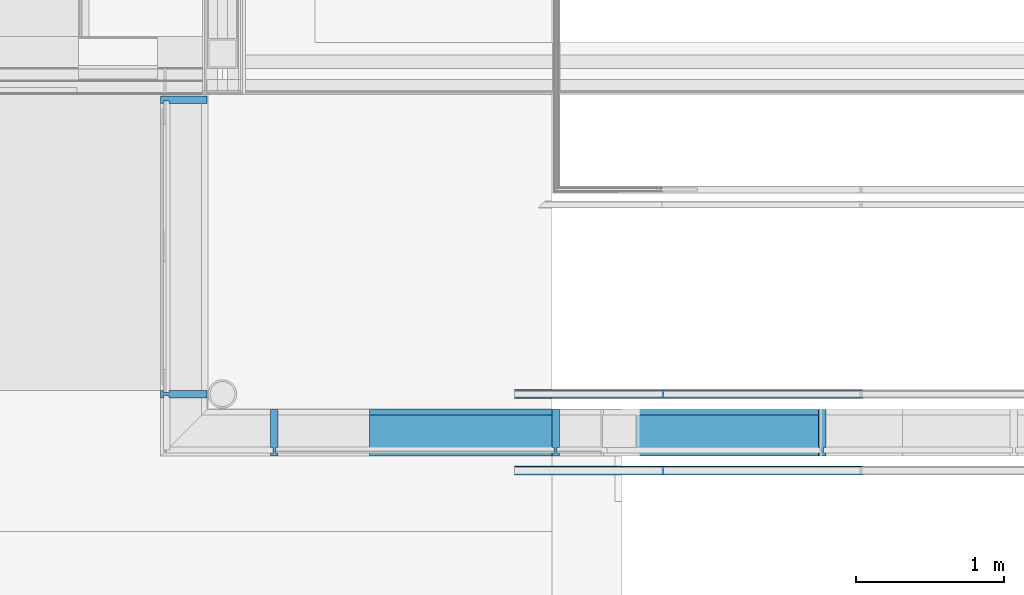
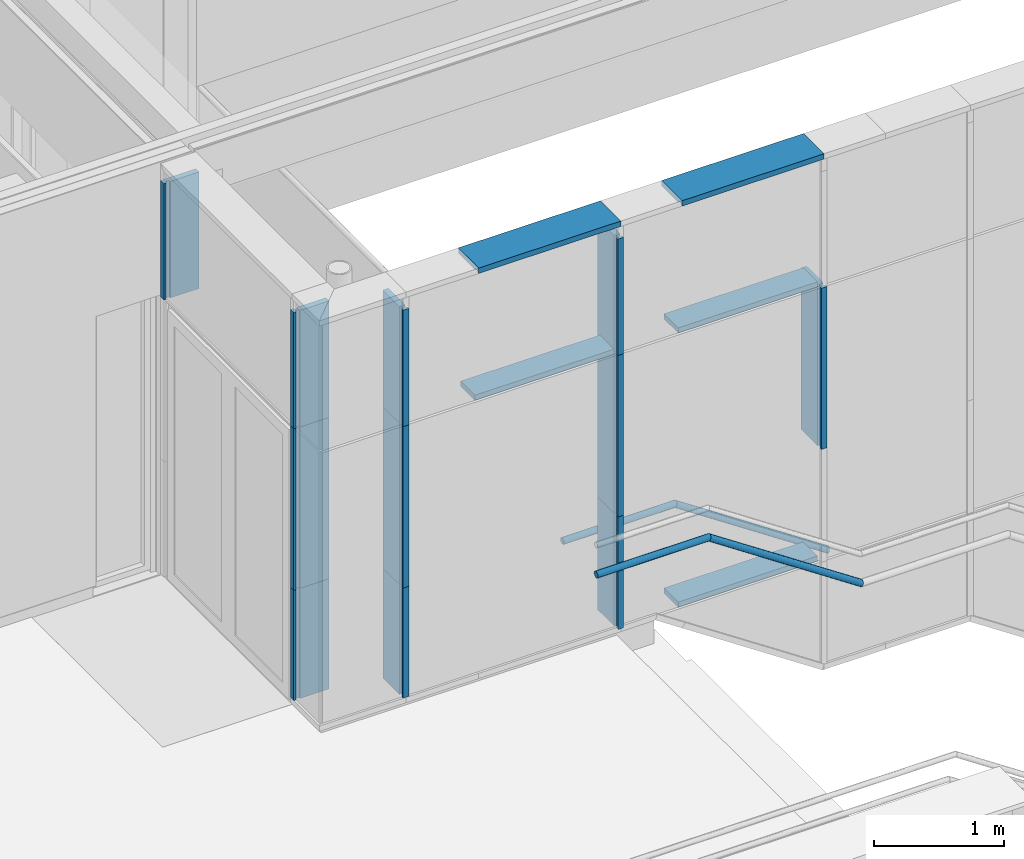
# One storey, part 1 of 137: 20 members, 3 elements without a shape of their own.
"""IFC2X3 building model written with IfcOpenShell, lengths in millimetres."""

import ifcopenshell
import ifcopenshell.guid

model = None  # the IFC model being written
_history = None  # IfcOwnerHistory: only IFC2X3 demands one
_inside = {}  # id of a spatial element -> (the spatial element, [elements in it])
_under = {}  # id of a project, library or spatial element -> (it, [spatial elements below it])
_declared = {}  # id of a project -> (the project, [libraries it declares])
_typed = {}  # id of a type object -> (the type object, [elements of that type])
_made_of = {}  # id of a material, layer set ... -> (it, [elements and type objects made of it])


def new_model(schema):
    """Start an empty IFC model of exactly this schema.

    Asked for "IFC4X3", IfcOpenShell would pick the latest addendum, in which some entities
    have other attributes; the version numbers below select the first issue.
    IFC2X3 requires an IfcOwnerHistory on every rooted entity: one is made here for all.
    """
    global model, _history
    if schema == "IFC4X3":
        model = ifcopenshell.file(schema_version=(4, 3, 0, 0))
    else:
        model = ifcopenshell.file(schema=schema)
    _inside.clear()
    _under.clear()
    _declared.clear()
    _typed.clear()
    _made_of.clear()
    _history = None
    if model.schema == "IFC2X3":
        org = make("IfcOrganization", Name="unknown")
        user = make(
            "IfcPersonAndOrganization",
            ThePerson=make("IfcPerson", FamilyName="unknown"),
            TheOrganization=org,
        )
        app = make(
            "IfcApplication",
            ApplicationDeveloper=org,
            Version="unknown",
            ApplicationFullName="unknown",
            ApplicationIdentifier="unknown",
        )
        _history = make(
            "IfcOwnerHistory",
            OwningUser=user,
            OwningApplication=app,
            ChangeAction="ADDED",
            CreationDate=0,
        )
    return model


def make(cls, **values):
    """One entity of the class cls with the attributes given. An attribute that is None is left unset."""
    return model.create_entity(
        cls, **{name: value for name, value in values.items() if value is not None}
    )


def entity(cls, *values):
    """Any entity or typed value of the class cls, its attributes in the order of the schema. None: left unset."""
    e = model.create_entity(cls)
    for i, value in enumerate(values):
        if value is not None:
            e[i] = value
    return e


def rooted(cls, **values):
    """An entity with a GlobalId (a new one), such as an element, a storey or a relation."""
    return make(cls, GlobalId=ifcopenshell.guid.new(), OwnerHistory=_history, **values)


def si_unit(unit_type, name, prefix=None):
    """IfcSIUnit, for example si_unit("LENGTHUNIT", "METRE", prefix="MILLI")."""
    return make("IfcSIUnit", UnitType=unit_type, Prefix=prefix, Name=name)


def converted_unit(unit_type, name, factor, base, dimensions=None, offset=None):
    """IfcConversionBasedUnit, such as the inch: factor (a typed value) times the base unit."""
    return make(
        "IfcConversionBasedUnit"
        if offset is None
        else "IfcConversionBasedUnitWithOffset",
        ConversionOffset=offset,
        Dimensions=None
        if dimensions is None
        else entity("IfcDimensionalExponents", *dimensions),
        UnitType=unit_type,
        Name=name,
        ConversionFactor=make(
            "IfcMeasureWithUnit", ValueComponent=factor, UnitComponent=base
        ),
    )


def derived_unit(unit_type, elements):
    """IfcDerivedUnit: a product of units, each with its exponent."""
    return make(
        "IfcDerivedUnit",
        Elements=[
            make("IfcDerivedUnitElement", Unit=unit, Exponent=power)
            for unit, power in elements
        ],
        UnitType=unit_type,
    )


def money_unit(currency):
    """IfcMonetaryUnit."""
    return make("IfcMonetaryUnit", Currency=currency)


def assignment(units):
    """IfcUnitAssignment: the units of a project."""
    return None if units is None else make("IfcUnitAssignment", Units=units)


def point(xyz):
    """IfcCartesianPoint."""
    return None if xyz is None else make("IfcCartesianPoint", Coordinates=xyz)


def direction(xyz):
    """IfcDirection."""
    return None if xyz is None else make("IfcDirection", DirectionRatios=xyz)


def frame(location, z_axis=None, x_axis=None):
    """IfcAxis2Placement3D, a coordinate frame: its origin and axes. An axis left out is left unset."""
    return make(
        "IfcAxis2Placement3D",
        Location=point(location),
        Axis=direction(z_axis),
        RefDirection=direction(x_axis),
    )


def origin_with_axes():
    """The frame at (0, 0, 0) with the z axis (0, 0, 1) and the x axis (1, 0, 0) written out."""
    return frame((0.0, 0.0, 0.0), z_axis=(0.0, 0.0, 1.0), x_axis=(1.0, 0.0, 0.0))


def place(relative_to, where):
    """IfcLocalPlacement: puts the frame where relative to a parent placement (None: the world)."""
    return make(
        "IfcLocalPlacement", PlacementRelTo=relative_to, RelativePlacement=where
    )


def context(
    kind, dimensions, precision=None, world=None, true_north=None, identifier=None
):
    """IfcGeometricRepresentationContext, for example the 3D "Model" context."""
    return make(
        "IfcGeometricRepresentationContext",
        ContextIdentifier=identifier,
        ContextType=kind,
        CoordinateSpaceDimension=dimensions,
        Precision=precision,
        WorldCoordinateSystem=world,
        TrueNorth=true_north,
    )


def subcontext(parent, identifier, kind, view, scale=None):
    """IfcGeometricRepresentationSubContext, for example "Body" below "Model"."""
    return make(
        "IfcGeometricRepresentationSubContext",
        ContextIdentifier=identifier,
        ContextType=kind,
        ParentContext=parent,
        TargetScale=scale,
        TargetView=view,
    )


def project(units=None, contexts=None):
    """IfcProject with its units and contexts."""
    return rooted(
        "IfcProject",
        Name="project",
        RepresentationContexts=contexts,
        UnitsInContext=assignment(units),
    )


def spatial(cls, under=None, at=None, **own):
    """A site, building, storey or space (cls), placed at a placement, below another one or the project."""
    s = rooted(cls, ObjectPlacement=at, **own)
    if under is not None:
        _under.setdefault(under.id(), (under, []))[1].append(s)
    return s


def faces_of(points, faces, orient=None, outer=None):
    """IfcFace entities. A face is a list of loops; a loop is a list of indices into points, from 0.

    orient and outer hold one flag for each loop. By default every Orientation is true, the
    first loop of a face is its IfcFaceOuterBound and the others are IfcFaceBound.
    """
    made = []
    for i, loops in enumerate(faces):
        bounds = []
        for j, loop in enumerate(loops):
            is_outer = j == 0 if outer is None else outer[i][j]
            bounds.append(
                make(
                    "IfcFaceOuterBound" if is_outer else "IfcFaceBound",
                    Bound=make("IfcPolyLoop", Polygon=[points[k] for k in loop]),
                    Orientation=True if orient is None else orient[i][j],
                )
            )
        made.append(make("IfcFace", Bounds=bounds))
    return made


def faceted_brep(points, faces, orient=None, outer=None, voids=None):
    """IfcFacetedBrep: a solid bounded by flat faces; with voids (closed shells), ...WithVoids."""
    shared = [point(p) for p in points]
    hull = make("IfcClosedShell", CfsFaces=faces_of(shared, faces, orient, outer))
    if voids is None:
        return make("IfcFacetedBrep", Outer=hull)
    return make(
        "IfcFacetedBrepWithVoids",
        Outer=hull,
        Voids=[
            make(cls, CfsFaces=faces_of(shared, fs, o, b)) for cls, fs, o, b in voids
        ],
    )


def shape(context_of_items, identifier, shape_type, items):
    """IfcShapeRepresentation: the items that make up one representation, for example the "Body"."""
    return make(
        "IfcShapeRepresentation",
        ContextOfItems=context_of_items,
        RepresentationIdentifier=identifier,
        RepresentationType=shape_type,
        Items=items,
    )


def source(mapping_origin, context_of_items, identifier, shape_type, items):
    """IfcRepresentationMap: a shape defined once, which mapped items show again and again."""
    return make(
        "IfcRepresentationMap",
        MappingOrigin=mapping_origin,
        MappedRepresentation=shape(context_of_items, identifier, shape_type, items),
    )


def transform(
    local_origin,
    x_axis=None,
    y_axis=None,
    z_axis=None,
    scale=None,
    scale2=None,
    scale3=None,
    uniform=True,
):
    """IfcCartesianTransformationOperator3D, or its non-uniform kind. x_axis, y_axis, z_axis: its Axis1, 2, 3."""
    if uniform:
        return make(
            "IfcCartesianTransformationOperator3D",
            Axis1=direction(x_axis),
            Axis2=direction(y_axis),
            LocalOrigin=point(local_origin),
            Scale=scale,
            Axis3=direction(z_axis),
        )
    return make(
        "IfcCartesianTransformationOperator3DnonUniform",
        Axis1=direction(x_axis),
        Axis2=direction(y_axis),
        LocalOrigin=point(local_origin),
        Scale=scale,
        Axis3=direction(z_axis),
        Scale2=scale2,
        Scale3=scale3,
    )


def mapped(mapping_source, mapping_target):
    """IfcMappedItem: shows the shape of a source again, moved by a transform."""
    return make(
        "IfcMappedItem", MappingSource=mapping_source, MappingTarget=mapping_target
    )


def material(Name=None, Category=None):
    """IfcMaterial."""
    return make("IfcMaterial", Name=Name, Category=Category)


def made_of(thing, what):
    """Note that an element or type object is made of a material, layer set ...; save() writes the relation."""
    if what is not None:
        _made_of.setdefault(what.id(), (what, []))[1].append(thing)
    return thing


def type_object(cls, material=None, **own):
    """A type object (cls), such as IfcWallType, which elements share."""
    return made_of(rooted(cls, **own), material)


def type_shapes(of_type, sources):
    """Give a type object the sources (RepresentationMaps) that its elements show as mapped items."""
    of_type.RepresentationMaps = sources


def element(
    cls,
    number,
    at=None,
    inside=None,
    cuts=None,
    type_object=None,
    material=None,
    context=None,
    identifier="Body",
    shape_type=None,
    held_by="IfcProductDefinitionShape",
    body=None,
    shapes=None,
    **own,
):
    """One element of the class cls, such as IfcWall. Its Tag is "e" and its number.

    at: its placement. inside: the storey or other place that contains it. cuts: it is an
    opening in that element (IfcRelVoidsElement). A single representation is given by context,
    identifier, shape_type and body (its items); several are given by shapes. held_by: the class
    of the entity that holds the representations. save() writes the other relations.
    """
    e = rooted(cls, Tag="e%d" % number, ObjectPlacement=at, **own)
    if body is not None:
        shapes = [shape(context, identifier, shape_type, body)]
    if shapes is not None:
        e.Representation = make(held_by, Representations=shapes)
    if inside is not None:
        _inside.setdefault(inside.id(), (inside, []))[1].append(e)
    if cuts is not None:
        rooted(
            "IfcRelVoidsElement", RelatingBuildingElement=cuts, RelatedOpeningElement=e
        )
    if type_object is not None:
        _typed.setdefault(type_object.id(), (type_object, []))[1].append(e)
    return made_of(e, material)


def aggregate(whole, parts):
    """IfcRelAggregates: a whole, such as a stair, and the parts it consists of."""
    return rooted("IfcRelAggregates", RelatingObject=whole, RelatedObjects=parts)


def save(model, path):
    """Write the relations noted so far, then the file.

    IfcRelAggregates (storeys below a building ...), IfcRelContainedInSpatialStructure (elements
    in a storey), IfcRelDefinesByType, IfcRelAssociatesMaterial and IfcRelDeclares: one each for
    every whole, place, type object, material and project.
    """
    for whole, parts in _under.values():
        aggregate(whole, parts)
    for where, things in _inside.values():
        rooted(
            "IfcRelContainedInSpatialStructure",
            RelatedElements=things,
            RelatingStructure=where,
        )
    for kind, things in _typed.values():
        rooted("IfcRelDefinesByType", RelatedObjects=things, RelatingType=kind)
    for what, things in _made_of.values():
        rooted("IfcRelAssociatesMaterial", RelatedObjects=things, RelatingMaterial=what)
    for by, libraries in _declared.values():
        rooted("IfcRelDeclares", RelatingContext=by, RelatedDefinitions=libraries)
    model.write(path)


model = new_model("IFC2X3")

# Units and contexts
model_context = context("Model", 3, precision=0.01, world=origin_with_axes(), true_north=direction((0.0, 1.0)))
body_context = subcontext(model_context, "Body", "Model", "MODEL_VIEW")
ifc_project = project(units=[si_unit("LENGTHUNIT", "METRE", prefix="MILLI"), si_unit("AREAUNIT", "SQUARE_METRE"), si_unit("VOLUMEUNIT", "CUBIC_METRE"), converted_unit("PLANEANGLEUNIT", "DEGREE", entity("IfcPlaneAngleMeasure", 0.0174532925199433), si_unit("PLANEANGLEUNIT", "RADIAN"), dimensions=[0, 0, 0, 0, 0, 0, 0]), money_unit("EUR"), converted_unit("TIMEUNIT", "Year", entity("IfcTimeMeasure", 31556926.0), si_unit("TIMEUNIT", "SECOND"), dimensions=[0, 0, 1, 0, 0, 0, 0]), si_unit("MASSUNIT", "GRAM", prefix="KILO"), si_unit("THERMODYNAMICTEMPERATUREUNIT", "DEGREE_CELSIUS"), si_unit("LUMINOUSINTENSITYUNIT", "LUMEN"), si_unit("ENERGYUNIT", "JOULE", prefix="MEGA"), derived_unit("THERMALCONDUCTANCEUNIT", [(si_unit("POWERUNIT", "WATT"), 1), (si_unit("LENGTHUNIT", "METRE"), -1), (si_unit("THERMODYNAMICTEMPERATUREUNIT", "KELVIN"), -1)]), derived_unit("SPECIFICHEATCAPACITYUNIT", [(si_unit("ENERGYUNIT", "JOULE"), 1), (si_unit("MASSUNIT", "GRAM", prefix="KILO"), -1), (si_unit("THERMODYNAMICTEMPERATUREUNIT", "KELVIN"), -1)]), derived_unit("MASSDENSITYUNIT", [(si_unit("MASSUNIT", "GRAM", prefix="KILO"), 1), (si_unit("VOLUMEUNIT", "CUBIC_METRE"), -1)])], contexts=[model_context])

# Site, building, storey
site_placement = place(None, origin_with_axes())
site = spatial("IfcSite", under=ifc_project, at=site_placement, Name="Site", CompositionType="ELEMENT")
building_placement = place(site_placement, origin_with_axes())
building = spatial("IfcBuilding", under=site, at=building_placement, Name="Naam gebouw", CompositionType="ELEMENT")
storey_placement = place(building_placement, frame((0.0, 0.0, 3960.0), z_axis=(0.0, 0.0, 1.0), x_axis=(1.0, 0.0, 0.0)))
storey = spatial("IfcBuildingStorey", under=building, at=storey_placement, Name="1e verdieping", CompositionType="ELEMENT", Elevation=3960.0)

# Railing, member
railing_type = type_object("IfcRailingType", Name="Railing Type", PredefinedType="NOTDEFINED")
railing_1_placement = place(storey_placement, frame((18789.99987047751, 4162.49999999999, -4086.699999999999), z_axis=(0.0, 0.0, 1.0), x_axis=(1.0, 0.0, 0.0)))
railing_1 = element("IfcRailing", 1, at=railing_1_placement, inside=storey, type_object=railing_type, Name="34_Reling-x", PredefinedType="NOTDEFINED")
ifc_material_1 = material(Name="Metaal - RVS")
member_type_1 = type_object("IfcMemberType", Name="IfcMember", PredefinedType="USERDEFINED")
shared_shape_1 = source(origin_with_axes(), body_context, "Body", "Brep", [
    faceted_brep([(0.0, -30.0, 700.0000000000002), (1.577293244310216, -29.54423259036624, 705.2094453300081), (-1348.422591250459, -29.54423259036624, 1605.209445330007), (-1349.999884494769, -30.0, 1599.999999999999), (-1.577293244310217, -29.54423259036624, 694.7905546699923), (-3.106661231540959, -28.19077862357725, 689.7393957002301), (-4.541634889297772, -25.98076211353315, 685.0000000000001), (-5.838613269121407, -22.98133329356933, 680.716371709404), (-6.95818833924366, -19.28362829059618, 677.0186667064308), (-7.866342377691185, -15.0, 674.019237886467), (-8.535481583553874, -10.26060429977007, 671.809221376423), (-8.945274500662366, -5.209445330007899, 670.455767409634), (-9.083269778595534, 0.0, 670.0000000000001), (-8.945274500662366, 5.20944533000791, 670.455767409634), (-8.535481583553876, 10.26060429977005, 671.809221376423), (-7.866342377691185, 15.00000000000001, 674.019237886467), (-6.958188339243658, 19.28362829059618, 677.0186667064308), (-5.838613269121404, 22.98133329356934, 680.716371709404), (-4.541634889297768, 25.98076211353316, 685.0000000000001), (-3.106661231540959, 28.19077862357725, 689.7393957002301), (-1.577293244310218, 29.54423259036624, 694.7905546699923), (0.0, 30.0, 700.0000000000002), (1.577293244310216, 29.54423259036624, 705.2094453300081), (3.106661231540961, 28.19077862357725, 710.2606042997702), (4.541634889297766, 25.98076211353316, 715.0000000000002), (5.838613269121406, 22.98133329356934, 719.2836282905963), (6.958188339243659, 19.28362829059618, 722.9813332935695), (7.866342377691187, 14.99999999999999, 725.9807621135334), (8.535481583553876, 10.26060429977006, 728.1907786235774), (8.945274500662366, 5.209445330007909, 729.5442325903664), (9.083269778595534, 0.0, 730.0000000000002), (8.945274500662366, -5.209445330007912, 729.5442325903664), (8.535481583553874, -10.26060429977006, 728.1907786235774), (7.866342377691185, -15.0, 725.9807621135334), (6.958188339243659, -19.28362829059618, 722.9813332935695), (5.838613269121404, -22.98133329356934, 719.2836282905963), (4.541634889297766, -25.98076211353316, 715.0000000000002), (3.10666123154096, -28.19077862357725, 710.2606042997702), (-1346.893223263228, -28.19077862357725, 1610.260604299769), (-1345.458249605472, -25.98076211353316, 1614.999999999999), (-1344.161271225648, -22.98133329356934, 1619.283628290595), (-1343.041696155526, -19.28362829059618, 1622.981333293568), (-1342.133542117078, -15.0, 1625.980762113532), (-1341.464402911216, -10.26060429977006, 1628.190778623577), (-1341.054609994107, -5.209445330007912, 1629.544232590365), (-1340.916614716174, 0.0, 1629.999999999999), (-1341.054609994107, 5.209445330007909, 1629.544232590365), (-1341.464402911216, 10.26060429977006, 1628.190778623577), (-1342.133542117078, 14.99999999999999, 1625.980762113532), (-1343.041696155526, 19.28362829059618, 1622.981333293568), (-1344.161271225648, 22.98133329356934, 1619.283628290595), (-1345.458249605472, 25.98076211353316, 1614.999999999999), (-1346.893223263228, 28.19077862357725, 1610.260604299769), (-1348.422591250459, 29.54423259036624, 1605.209445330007), (-1349.999884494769, 30.0, 1599.999999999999), (-1351.577177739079, 29.54423259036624, 1594.790554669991), (-1353.10654572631, 28.19077862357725, 1589.739395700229), (-1354.541519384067, 25.98076211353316, 1584.999999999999), (-1355.838497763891, 22.98133329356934, 1580.716371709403), (-1356.958072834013, 19.28362829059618, 1577.01866670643), (-1357.866226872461, 15.00000000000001, 1574.019237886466), (-1358.535366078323, 10.26060429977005, 1571.809221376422), (-1358.945158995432, 5.20944533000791, 1570.455767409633), (-1359.083154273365, 0.0, 1569.999999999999), (-1358.945158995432, -5.209445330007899, 1570.455767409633), (-1358.535366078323, -10.26060429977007, 1571.809221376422), (-1357.866226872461, -15.0, 1574.019237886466), (-1356.958072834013, -19.28362829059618, 1577.01866670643), (-1355.838497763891, -22.98133329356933, 1580.716371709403), (-1354.541519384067, -25.98076211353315, 1584.999999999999), (-1353.10654572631, -28.19077862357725, 1589.739395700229), (-1351.577177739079, -29.54423259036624, 1594.790554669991)], [[[0, 1, 2, 3]], [[0, 4, 5, 6, 7, 8, 9, 10, 11, 12, 13, 14, 15, 16, 17, 18, 19, 20, 21, 22, 23, 24, 25, 26, 27, 28, 29, 30, 31, 32, 33, 34, 35, 36, 37, 1]], [[1, 37, 38, 2]], [[3, 2, 38, 39, 40, 41, 42, 43, 44, 45, 46, 47, 48, 49, 50, 51, 52, 53, 54, 55, 56, 57, 58, 59, 60, 61, 62, 63, 64, 65, 66, 67, 68, 69, 70, 71]], [[4, 0, 3, 71]], [[5, 4, 71, 70]], [[6, 5, 70, 69]], [[7, 6, 69, 68]], [[8, 7, 68, 67]], [[9, 8, 67, 66]], [[10, 9, 66, 65]], [[11, 10, 65, 64]], [[12, 11, 64, 63]], [[13, 12, 63, 62]], [[14, 13, 62, 61]], [[15, 14, 61, 60]], [[16, 15, 60, 59]], [[17, 16, 59, 58]], [[18, 17, 58, 57]], [[19, 18, 57, 56]], [[20, 19, 56, 55]], [[21, 20, 55, 54]], [[22, 21, 54, 53]], [[23, 22, 53, 52]], [[24, 23, 52, 51]], [[25, 24, 51, 50]], [[26, 25, 50, 49]], [[27, 26, 49, 48]], [[28, 27, 48, 47]], [[29, 28, 47, 46]], [[30, 29, 46, 45]], [[31, 30, 45, 44]], [[32, 31, 44, 43]], [[33, 32, 43, 42]], [[34, 33, 42, 41]], [[35, 34, 41, 40]], [[36, 35, 40, 39]], [[37, 36, 39, 38]]]),
])
member_1_placement = place(railing_1_placement, frame((-6294.999882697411, -99.99999999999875, 3844.250310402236), z_axis=(0.0, 0.0, 1.0), x_axis=(1.0, 0.0, 0.0)))
member_1 = element("IfcMember", 2, at=member_1_placement, type_object=member_type_1, material=ifc_material_1, Name="h3 Staal legeringen_Regel-x", context=body_context, shape_type="MappedRepresentation", body=[
    mapped(shared_shape_1, transform((674.9999422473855, 0.0, -657.5735931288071))),
])

railing_2_placement = place(storey_placement, frame((18789.99987047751, 4479.999999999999, -4086.699999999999), z_axis=(0.0, 0.0, 1.0), x_axis=(1.0, 0.0, 0.0)))
railing_2 = element("IfcRailing", 3, at=railing_2_placement, inside=storey, type_object=railing_type, Name="34_Reling-x", PredefinedType="NOTDEFINED")
member_2_placement = place(railing_2_placement, frame((-6294.999882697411, 99.99999999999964, 3844.250310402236), z_axis=(0.0, 0.0, 1.0), x_axis=(1.0, 0.0, 0.0)))
member_2 = element("IfcMember", 4, at=member_2_placement, type_object=member_type_1, material=ifc_material_1, Name="_Regel-x", context=body_context, shape_type="MappedRepresentation", body=[
    mapped(shared_shape_1, transform((674.9999422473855, 0.0, -657.5735931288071))),
])

# Member
shared_shape_2 = source(origin_with_axes(), body_context, "Body", "Brep", [
    faceted_brep([(0.0, -30.0, 700.0000000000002), (1.577293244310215, -29.54423259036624, 705.2094453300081), (-996.2350720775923, -29.54423259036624, 705.2094453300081), (-996.2350720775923, -30.0, 700.0000000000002), (-1.577293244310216, -29.54423259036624, 694.7905546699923), (-3.106661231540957, -28.19077862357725, 689.7393957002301), (-4.541634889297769, -25.98076211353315, 685.0000000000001), (-5.838613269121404, -22.98133329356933, 680.716371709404), (-6.958188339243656, -19.28362829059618, 677.0186667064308), (-7.866342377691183, -15.0, 674.019237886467), (-8.53548158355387, -10.26060429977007, 671.809221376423), (-8.94527450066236, -5.209445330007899, 670.455767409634), (-9.083269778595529, 0.0, 670.0000000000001), (-8.94527450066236, 5.20944533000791, 670.455767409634), (-8.53548158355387, 10.26060429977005, 671.809221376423), (-7.866342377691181, 15.00000000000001, 674.019237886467), (-6.958188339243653, 19.28362829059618, 677.0186667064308), (-5.838613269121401, 22.98133329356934, 680.716371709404), (-4.541634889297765, 25.98076211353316, 685.0000000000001), (-3.106661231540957, 28.19077862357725, 689.7393957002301), (-1.577293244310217, 29.54423259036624, 694.7905546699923), (0.0, 30.0, 700.0000000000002), (1.577293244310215, 29.54423259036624, 705.2094453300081), (3.10666123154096, 28.19077862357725, 710.2606042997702), (4.541634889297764, 25.98076211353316, 715.0000000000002), (5.838613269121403, 22.98133329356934, 719.2836282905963), (6.958188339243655, 19.28362829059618, 722.9813332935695), (7.866342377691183, 14.99999999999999, 725.9807621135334), (8.53548158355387, 10.26060429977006, 728.1907786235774), (8.94527450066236, 5.209445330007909, 729.5442325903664), (9.083269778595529, 0.0, 730.0000000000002), (8.94527450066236, -5.209445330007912, 729.5442325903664), (8.53548158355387, -10.26060429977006, 728.1907786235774), (7.866342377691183, -15.0, 725.9807621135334), (6.958188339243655, -19.28362829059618, 722.9813332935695), (5.838613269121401, -22.98133329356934, 719.2836282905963), (4.541634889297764, -25.98076211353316, 715.0000000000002), (3.106661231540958, -28.19077862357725, 710.2606042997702), (-996.2350720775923, -28.19077862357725, 710.2606042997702), (-996.2350720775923, -25.98076211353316, 715.0000000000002), (-996.2350720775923, -22.98133329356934, 719.2836282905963), (-996.2350720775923, -19.28362829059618, 722.9813332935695), (-996.2350720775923, -15.0, 725.9807621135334), (-996.2350720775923, -10.26060429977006, 728.1907786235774), (-996.2350720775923, -5.209445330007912, 729.5442325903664), (-996.2350720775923, 0.0, 730.0000000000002), (-996.2350720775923, 5.209445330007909, 729.5442325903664), (-996.2350720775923, 10.26060429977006, 728.1907786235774), (-996.2350720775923, 14.99999999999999, 725.9807621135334), (-996.2350720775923, 19.28362829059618, 722.9813332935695), (-996.2350720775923, 22.98133329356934, 719.2836282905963), (-996.2350720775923, 25.98076211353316, 715.0000000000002), (-996.2350720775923, 28.19077862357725, 710.2606042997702), (-996.2350720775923, 29.54423259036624, 705.2094453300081), (-996.2350720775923, 30.0, 700.0000000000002), (-996.2350720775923, 29.54423259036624, 694.7905546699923), (-996.2350720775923, 28.19077862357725, 689.7393957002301), (-996.2350720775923, 25.98076211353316, 685.0000000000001), (-996.2350720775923, 22.98133329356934, 680.716371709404), (-996.2350720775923, 19.28362829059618, 677.0186667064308), (-996.2350720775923, 15.00000000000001, 674.019237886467), (-996.2350720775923, 10.26060429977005, 671.809221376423), (-996.2350720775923, 5.20944533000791, 670.455767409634), (-996.2350720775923, 0.0, 670.0000000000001), (-996.2350720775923, -5.209445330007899, 670.455767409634), (-996.2350720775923, -10.26060429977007, 671.809221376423), (-996.2350720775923, -15.0, 674.019237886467), (-996.2350720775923, -19.28362829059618, 677.0186667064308), (-996.2350720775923, -22.98133329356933, 680.716371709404), (-996.2350720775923, -25.98076211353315, 685.0000000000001), (-996.2350720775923, -28.19077862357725, 689.7393957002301), (-996.2350720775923, -29.54423259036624, 694.7905546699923)], [[[0, 1, 2, 3]], [[0, 4, 5, 6, 7, 8, 9, 10, 11, 12, 13, 14, 15, 16, 17, 18, 19, 20, 21, 22, 23, 24, 25, 26, 27, 28, 29, 30, 31, 32, 33, 34, 35, 36, 37, 1]], [[1, 37, 38, 2]], [[3, 2, 38, 39, 40, 41, 42, 43, 44, 45, 46, 47, 48, 49, 50, 51, 52, 53, 54, 55, 56, 57, 58, 59, 60, 61, 62, 63, 64, 65, 66, 67, 68, 69, 70, 71]], [[4, 0, 3, 71]], [[5, 4, 71, 70]], [[6, 5, 70, 69]], [[7, 6, 69, 68]], [[8, 7, 68, 67]], [[9, 8, 67, 66]], [[10, 9, 66, 65]], [[11, 10, 65, 64]], [[12, 11, 64, 63]], [[13, 12, 63, 62]], [[14, 13, 62, 61]], [[15, 14, 61, 60]], [[16, 15, 60, 59]], [[17, 16, 59, 58]], [[18, 17, 58, 57]], [[19, 18, 57, 56]], [[20, 19, 56, 55]], [[21, 20, 55, 54]], [[22, 21, 54, 53]], [[23, 22, 53, 52]], [[24, 23, 52, 51]], [[25, 24, 51, 50]], [[26, 25, 50, 49]], [[27, 26, 49, 48]], [[28, 27, 48, 47]], [[29, 28, 47, 46]], [[30, 29, 46, 45]], [[31, 30, 45, 44]], [[32, 31, 44, 43]], [[33, 32, 43, 42]], [[34, 33, 42, 41]], [[35, 34, 41, 40]], [[36, 35, 40, 39]], [[37, 36, 39, 38]]]),
])
type_shapes(member_type_1, [shared_shape_1, shared_shape_2])
member_3_placement = place(railing_1_placement, frame((-7468.117360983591, -99.99999999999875, 4744.250310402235), z_axis=(0.0, 0.0, 1.0), x_axis=(1.0, 0.0, 0.0)))
member_3 = element("IfcMember", 5, at=member_3_placement, type_object=member_type_1, material=ifc_material_1, Name="h3 Staal legeringen_Regel-x", context=body_context, shape_type="MappedRepresentation", body=[
    mapped(shared_shape_2, transform((498.1175360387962, 0.0, -657.5735931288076))),
])

aggregate(railing_1, [member_1, member_3])

member_4_placement = place(railing_2_placement, frame((-7468.117360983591, 99.99999999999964, 4744.250310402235), z_axis=(0.0, 0.0, 1.0), x_axis=(1.0, 0.0, 0.0)))
member_4 = element("IfcMember", 6, at=member_4_placement, type_object=member_type_1, material=ifc_material_1, Name="_Regel-x", context=body_context, shape_type="MappedRepresentation", body=[
    mapped(shared_shape_2, transform((498.1175360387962, 0.0, -657.5735931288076))),
])

aggregate(railing_2, [member_4, member_2])

# Curtain wall, members
curtain_wall_type = type_object("IfcCurtainWallType", Name="Curtain Wall Type", PredefinedType="NOTDEFINED")
curtain_wall_placement = place(storey_placement, frame((8473.014787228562, 4364.43626274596, -3949.999921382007), z_axis=(0.0, 0.0, 1.0), x_axis=(1.0, 0.0, 0.0)))
curtain_wall = element("IfcCurtainWall", 7, at=curtain_wall_placement, inside=storey, type_object=curtain_wall_type, Name="21_Vliesgevel-x")
ifc_material_2 = material(Name="Metaal - Staal AFW")
member_type_2 = type_object("IfcMemberType", Name="Boundary Frame 50 x 313", PredefinedType="MULLION")
shared_shape_3 = source(origin_with_axes(), body_context, "Body", "Brep", [
    faceted_brep([(-35.0, -17.4, 0.0), (-35.0, -17.4, 1089.999826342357), (-35.0, 21.0, 1089.999826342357), (-35.0, 21.0, 0.0), (-15.0, -17.4, 0.0), (-15.0, -17.4, 1089.999826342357), (-15.0, 21.0, 1089.999826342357), (-15.0, 21.0, 0.0)], [[[0, 1, 2, 3]], [[4, 5, 1, 0]], [[1, 5, 6, 2]], [[3, 2, 6, 7]], [[0, 3, 7, 4]], [[7, 6, 5, 4]]]),
    faceted_brep([(-15.0, -21.0, 0.0), (-15.0, -21.0, 1089.999826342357), (-15.0, 21.0, 1089.999826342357), (-15.0, 21.0, 0.0), (0.0, -21.0, 0.0), (0.0, -21.0, 1089.999826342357), (0.0, 21.0, 1089.999826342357), (0.0, 21.0, 0.0)], [[[0, 1, 2, 3]], [[4, 5, 1, 0]], [[1, 5, 6, 2]], [[3, 2, 6, 7]], [[0, 3, 7, 4]], [[7, 6, 5, 4]]]),
    faceted_brep([(-50.0, -272.0, 0.0), (-50.0, -272.0, 1089.999826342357), (-50.0, -17.4, 1089.999826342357), (-50.0, -17.4, 0.0), (0.0, -272.0, 0.0), (0.0, -272.0, 1089.999826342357), (0.0, -17.4, 1089.999826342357), (0.0, -17.4, 0.0)], [[[0, 1, 2, 3]], [[4, 5, 1, 0]], [[1, 5, 6, 2]], [[3, 2, 6, 7]], [[0, 3, 7, 4]], [[7, 6, 5, 4]]]),
    faceted_brep([(0.0, 40.99999999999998, 0.0), (0.0, 40.99999999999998, 1089.999826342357), (0.0, 21.0, 1089.999826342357), (0.0, 21.0, 0.0), (-50.0, 40.99999999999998, 0.0), (-50.0, 40.99999999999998, 1089.999826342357), (-50.0, 21.0, 1089.999826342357), (-50.0, 21.0, 0.0)], [[[0, 1, 2, 3]], [[4, 5, 1, 0]], [[1, 5, 6, 2]], [[3, 2, 6, 7]], [[0, 3, 7, 4]], [[7, 6, 5, 4]]]),
])
member_5_placement = place(curtain_wall_placement, frame((0.0, 2229.563386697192, 6549.999939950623), z_axis=(0.0, 0.0, 1.0), x_axis=(0.0, 1.0, 0.0)))
member_5 = element("IfcMember", 8, at=member_5_placement, type_object=member_type_2, material=ifc_material_2, Name="h METAAL_Kader-x", ObjectType="MULLION", context=body_context, shape_type="MappedRepresentation", body=[
    mapped(shared_shape_3, transform((0.0, 0.0, 0.0))),
])
member_type_3 = type_object("IfcMemberType", Name="Mullion Frame 50 x 313", PredefinedType="MULLION")
shared_shape_4 = source(origin_with_axes(), body_context, "Body", "Brep", [
    faceted_brep([(10.0, -17.4, -8.656350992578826e-08), (10.0, 21.0, -8.656350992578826e-08), (10.0, 21.0, 1089.999852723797), (10.0, -17.4, 1089.999852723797), (-10.0, -17.4, -8.656350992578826e-08), (-10.0, 21.0, -8.656350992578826e-08), (-10.0, 21.0, 1089.999852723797), (-10.0, -17.4, 1089.999852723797)], [[[0, 1, 2, 3]], [[0, 4, 5, 1]], [[1, 5, 6, 2]], [[3, 2, 6, 7]], [[4, 0, 3, 7]], [[5, 4, 7, 6]]]),
    faceted_brep([(25.0, -272.0, -8.656350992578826e-08), (25.0, -17.4, -8.656350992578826e-08), (25.0, -17.4, 1089.999852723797), (25.0, -272.0, 1089.999852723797), (-25.0, -272.0, -8.656350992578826e-08), (-25.0, -17.4, -8.656350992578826e-08), (-25.0, -17.4, 1089.999852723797), (-25.0, -272.0, 1089.999852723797)], [[[0, 1, 2, 3]], [[0, 4, 5, 1]], [[1, 5, 6, 2]], [[3, 2, 6, 7]], [[4, 0, 3, 7]], [[5, 4, 7, 6]]]),
    faceted_brep([(-25.0, 40.49999999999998, -8.656350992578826e-08), (-25.0, 21.0, -8.656350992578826e-08), (-25.0, 21.0, 1089.999852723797), (-25.0, 40.49999999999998, 1089.999852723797), (25.0, 40.49999999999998, -8.656350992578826e-08), (25.0, 21.0, -8.656350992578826e-08), (25.0, 21.0, 1089.999852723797), (25.0, 40.49999999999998, 1089.999852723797)], [[[0, 1, 2, 3]], [[0, 4, 5, 1]], [[1, 5, 6, 2]], [[3, 2, 6, 7]], [[4, 0, 3, 7]], [[5, 4, 7, 6]]]),
])
member_6_placement = place(curtain_wall_placement, frame((2626.986522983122, -161.43626274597, 6549.999915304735), z_axis=(1.965904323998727e-08, 0.0, 0.9999999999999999), x_axis=(-0.9999999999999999, 0.0, 1.965904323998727e-08)))
member_6 = element("IfcMember", 9, at=member_6_placement, type_object=member_type_3, material=ifc_material_2, Name="_Kader-x", ObjectType="MULLION", context=body_context, shape_type="MappedRepresentation", body=[
    mapped(shared_shape_4, transform((0.0, 0.0, 0.0))),
])
member_7_placement = place(curtain_wall_placement, frame((0.0, 215.248346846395, 6549.999939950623), z_axis=(0.0, -1.764254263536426e-09, 1.0), x_axis=(0.0, 1.0, 1.764254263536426e-09)))
member_7 = element("IfcMember", 10, at=member_7_placement, type_object=member_type_3, material=ifc_material_2, Name="_Kader-x", ObjectType="MULLION", context=body_context, shape_type="MappedRepresentation", body=[
    mapped(shared_shape_4, transform((0.0, 0.0, 0.0))),
])
member_8_placement = place(curtain_wall_placement, frame((726.9852204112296, -161.4362627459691, 6549.999922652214), z_axis=(7.588190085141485e-09, 0.0, 1.0), x_axis=(-1.0, 0.0, 7.588190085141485e-09)))
member_8 = element("IfcMember", 11, at=member_8_placement, type_object=member_type_3, material=ifc_material_2, Name="_Kader-x", ObjectType="MULLION", context=body_context, shape_type="MappedRepresentation", body=[
    mapped(shared_shape_4, transform((0.0, 0.0, 0.0))),
])
shared_shape_5 = source(origin_with_axes(), body_context, "Body", "Brep", [
    faceted_brep([(10.0, -17.4, 0.0), (10.0, 21.0, 0.0), (10.0, 21.0, 1054.999839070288), (10.0, -17.4, 1054.999839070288), (-10.0, -17.4, 0.0), (-10.0, 21.0, 0.0), (-10.0, 21.0, 1054.999839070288), (-10.0, -17.4, 1054.999839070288)], [[[0, 1, 2, 3]], [[0, 4, 5, 1]], [[1, 5, 6, 2]], [[3, 2, 6, 7]], [[4, 0, 3, 7]], [[5, 4, 7, 6]]]),
    faceted_brep([(25.0, -272.0, 0.0), (25.0, -17.4, 0.0), (25.0, -17.4, 1054.999839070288), (25.0, -272.0, 1054.999839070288), (-25.0, -272.0, 0.0), (-25.0, -17.4, 0.0), (-25.0, -17.4, 1054.999839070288), (-25.0, -272.0, 1054.999839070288)], [[[0, 1, 2, 3]], [[0, 4, 5, 1]], [[1, 5, 6, 2]], [[3, 2, 6, 7]], [[4, 0, 3, 7]], [[5, 4, 7, 6]]]),
    faceted_brep([(-25.0, 40.49999999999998, 0.0), (-25.0, 21.0, 0.0), (-25.0, 21.0, 1054.999839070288), (-25.0, 40.49999999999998, 1054.999839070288), (25.0, 40.49999999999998, 0.0), (25.0, 21.0, 0.0), (25.0, 21.0, 1054.999839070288), (25.0, 40.49999999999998, 1054.999839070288)], [[[0, 1, 2, 3]], [[0, 4, 5, 1]], [[1, 5, 6, 2]], [[3, 2, 6, 7]], [[4, 0, 3, 7]], [[5, 4, 7, 6]]]),
])
member_9_placement = place(curtain_wall_placement, frame((2626.986543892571, -161.43626274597, 3984.999864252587), z_axis=(-2.075644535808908e-08, 0.0, 0.9999999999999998), x_axis=(-0.9999999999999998, 0.0, -2.075644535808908e-08)))
member_9 = element("IfcMember", 12, at=member_9_placement, type_object=member_type_3, material=ifc_material_2, Name="_Kader-x", ObjectType="MULLION", context=body_context, shape_type="MappedRepresentation", body=[
    mapped(shared_shape_5, transform((0.0, 0.0, 0.0))),
])
shared_shape_6 = source(origin_with_axes(), body_context, "Body", "Brep", [
    faceted_brep([(10.0, -17.4, -4.762904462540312e-09), (10.0, 21.0, -4.762904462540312e-09), (10.0, 21.0, 1510.000149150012), (10.0, -17.4, 1510.000149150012), (-10.0, -17.4, -4.762904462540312e-09), (-10.0, 21.0, -4.762904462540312e-09), (-10.0, 21.0, 1510.000149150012), (-10.0, -17.4, 1510.000149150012)], [[[0, 1, 2, 3]], [[0, 4, 5, 1]], [[1, 5, 6, 2]], [[3, 2, 6, 7]], [[4, 0, 3, 7]], [[5, 4, 7, 6]]]),
    faceted_brep([(25.0, -272.0, -4.762904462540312e-09), (25.0, -17.4, -4.762904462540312e-09), (25.0, -17.4, 1510.000149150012), (25.0, -272.0, 1510.000149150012), (-25.0, -272.0, -4.762904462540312e-09), (-25.0, -17.4, -4.762904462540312e-09), (-25.0, -17.4, 1510.000149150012), (-25.0, -272.0, 1510.000149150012)], [[[0, 1, 2, 3]], [[0, 4, 5, 1]], [[1, 5, 6, 2]], [[3, 2, 6, 7]], [[4, 0, 3, 7]], [[5, 4, 7, 6]]]),
    faceted_brep([(-25.0, 40.49999999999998, -4.762904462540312e-09), (-25.0, 21.0, -4.762904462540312e-09), (-25.0, 21.0, 1510.000149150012), (-25.0, 40.49999999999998, 1510.000149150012), (25.0, 40.49999999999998, -4.762904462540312e-09), (25.0, 21.0, -4.762904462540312e-09), (25.0, 21.0, 1510.000149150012), (25.0, 40.49999999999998, 1510.000149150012)], [[[0, 1, 2, 3]], [[0, 4, 5, 1]], [[1, 5, 6, 2]], [[3, 2, 6, 7]], [[4, 0, 3, 7]], [[5, 4, 7, 6]]]),
])
member_10_placement = place(curtain_wall_placement, frame((2626.986521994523, -161.43626274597, 5039.999766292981), z_axis=(6.547015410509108e-10, 0.0, 1.0), x_axis=(-1.0, 0.0, 6.547015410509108e-10)))
member_10 = element("IfcMember", 13, at=member_10_placement, type_object=member_type_3, material=ifc_material_2, Name="_Kader-x", ObjectType="MULLION", context=body_context, shape_type="MappedRepresentation", body=[
    mapped(shared_shape_6, transform((0.0, 0.0, 0.0))),
])
member_11_placement = place(curtain_wall_placement, frame((4426.980398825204, -161.43626274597, 5039.999766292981), z_axis=(-2.489005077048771e-10, 0.0, 1.0), x_axis=(-1.0, 0.0, -2.489005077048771e-10)))
member_11 = element("IfcMember", 14, at=member_11_placement, type_object=member_type_3, material=ifc_material_2, Name="_Kader-x", ObjectType="MULLION", context=body_context, shape_type="MappedRepresentation", body=[
    mapped(shared_shape_6, transform((0.0, 0.0, 0.0))),
])
member_12_placement = place(curtain_wall_placement, frame((0.0, 215.2483520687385, 5039.999766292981), z_axis=(0.0, -3.458505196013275e-09, 1.0), x_axis=(0.0, 1.0, 3.458505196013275e-09)))
member_12 = element("IfcMember", 15, at=member_12_placement, type_object=member_type_3, material=ifc_material_2, Name="_Kader-x", ObjectType="MULLION", context=body_context, shape_type="MappedRepresentation", body=[
    mapped(shared_shape_6, transform((0.0, 0.0, 0.0))),
])
member_13_placement = place(curtain_wall_placement, frame((726.9852200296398, -161.4362627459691, 5039.999766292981), z_axis=(2.527084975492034e-10, 0.0, 1.0), x_axis=(-1.0, 0.0, 2.527084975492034e-10)))
member_13 = element("IfcMember", 16, at=member_13_placement, type_object=member_type_3, material=ifc_material_2, Name="_Kader-x", ObjectType="MULLION", context=body_context, shape_type="MappedRepresentation", body=[
    mapped(shared_shape_6, transform((0.0, 0.0, 0.0))),
])
member_type_4 = type_object("IfcMemberType", Name="Transom Frame 50 x 258", PredefinedType="MULLION")
shared_shape_7 = source(origin_with_axes(), body_context, "Body", "Brep", [
    faceted_brep([(25.0, -237.0, -6.308735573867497e-07), (25.0, -17.4, -6.308735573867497e-07), (25.0, -17.4, 1232.038737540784), (25.0, -237.0, 1232.038731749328), (-25.0, -237.0, -6.308735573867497e-07), (-25.0, -17.4, -6.308735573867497e-07), (-25.0, -17.4, 1232.038737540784), (-25.0, -237.0, 1232.038731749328)], [[[0, 1, 2, 3]], [[0, 4, 5, 1]], [[1, 5, 6, 2]], [[3, 2, 6, 7]], [[4, 0, 3, 7]], [[5, 4, 7, 6]]]),
])
type_shapes(member_type_4, [shared_shape_7])
member_14_placement = place(curtain_wall_placement, frame((3169.941645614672, -161.43626274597, 3984.999909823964), z_axis=(1.0, 0.0, 1.195486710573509e-08), x_axis=(-1.195486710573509e-08, 0.0, 1.0)))
member_14 = element("IfcMember", 17, at=member_14_placement, type_object=member_type_4, material=ifc_material_2, Name="h METAAL_Kader-x", ObjectType="MULLION", context=body_context, shape_type="MappedRepresentation", body=[
    mapped(shared_shape_7, transform((0.0, 0.0, 0.0))),
])
member_15_placement = place(curtain_wall_placement, frame((1369.941645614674, -161.4362627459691, 6549.999915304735), z_axis=(1.0, 0.0, 0.0), x_axis=(0.0, 0.0, 1.0)))
member_15 = element("IfcMember", 18, at=member_15_placement, type_object=member_type_4, material=ifc_material_2, Name="_Kader-x", ObjectType="MULLION", context=body_context, shape_type="MappedRepresentation", body=[
    mapped(shared_shape_7, transform((0.0, 0.0, 0.0))),
])
member_16_placement = place(curtain_wall_placement, frame((3169.941645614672, -161.43626274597, 6549.999915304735), z_axis=(1.0, 0.0, 0.0), x_axis=(0.0, 0.0, 1.0)))
member_16 = element("IfcMember", 19, at=member_16_placement, type_object=member_type_4, material=ifc_material_2, Name="_Kader-x", ObjectType="MULLION", context=body_context, shape_type="MappedRepresentation", body=[
    mapped(shared_shape_7, transform((0.0, 0.0, 0.0))),
])
shared_shape_8 = source(origin_with_axes(), body_context, "Body", "Brep", [
    faceted_brep([(-35.0, -17.4, 0.0), (-35.0, -17.4, 1257.044870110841), (-35.0, 21.0, 1257.044870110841), (-35.0, 21.0, 0.0), (-15.0, -17.4, 0.0), (-15.0, -17.4, 1257.044870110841), (-15.0, 21.0, 1257.044870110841), (-15.0, 21.0, 0.0)], [[[0, 1, 2, 3]], [[4, 5, 1, 0]], [[1, 5, 6, 2]], [[3, 2, 6, 7]], [[0, 3, 7, 4]], [[7, 6, 5, 4]]]),
    faceted_brep([(-15.0, -21.0, 0.0), (-15.0, -21.0, 1257.044870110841), (-15.0, 21.0, 1257.044870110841), (-15.0, 21.0, 0.0), (0.0, -21.0, 0.0), (0.0, -21.0, 1257.044870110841), (0.0, 21.0, 1257.044870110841), (0.0, 21.0, 0.0)], [[[0, 1, 2, 3]], [[4, 5, 1, 0]], [[1, 5, 6, 2]], [[3, 2, 6, 7]], [[0, 3, 7, 4]], [[7, 6, 5, 4]]]),
    faceted_brep([(-50.0, -272.0, 0.0), (-50.0, -272.0, 1257.044870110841), (-50.0, -17.4, 1257.044870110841), (-50.0, -17.4, 0.0), (0.0, -272.0, 0.0), (0.0, -272.0, 1257.044870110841), (0.0, -17.4, 1257.044870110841), (0.0, -17.4, 0.0)], [[[0, 1, 2, 3]], [[4, 5, 1, 0]], [[1, 5, 6, 2]], [[3, 2, 6, 7]], [[0, 3, 7, 4]], [[7, 6, 5, 4]]]),
    faceted_brep([(0.0, 40.99999999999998, 0.0), (0.0, 40.99999999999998, 1257.044870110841), (0.0, 21.0, 1257.044870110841), (0.0, 21.0, 0.0), (-50.0, 40.99999999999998, 0.0), (-50.0, 40.99999999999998, 1257.044870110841), (-50.0, 21.0, 1257.044870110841), (-50.0, 21.0, 0.0)], [[[0, 1, 2, 3]], [[4, 5, 1, 0]], [[1, 5, 6, 2]], [[3, 2, 6, 7]], [[0, 3, 7, 4]], [[7, 6, 5, 4]]]),
])
type_shapes(member_type_2, [shared_shape_3, shared_shape_8])
member_17_placement = place(curtain_wall_placement, frame((3169.941645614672, -161.43626274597, 7800.000020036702), z_axis=(1.0, 0.0, 0.0), x_axis=(0.0, 0.0, 1.0)))
member_17 = element("IfcMember", 20, at=member_17_placement, type_object=member_type_2, material=ifc_material_2, Name="_Kader-x", ObjectType="MULLION", context=body_context, shape_type="MappedRepresentation", body=[
    mapped(shared_shape_8, transform((0.0, 0.0, 0.0))),
])
member_18_placement = place(curtain_wall_placement, frame((1369.941645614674, -161.4362627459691, 7800.000020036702), z_axis=(1.0, 0.0, 0.0), x_axis=(0.0, 0.0, 1.0)))
member_18 = element("IfcMember", 21, at=member_18_placement, type_object=member_type_2, material=ifc_material_2, Name="h METAAL_Kader-x", ObjectType="MULLION", context=body_context, shape_type="MappedRepresentation", body=[
    mapped(shared_shape_8, transform((0.0, 0.0, 0.0))),
])
shared_shape_9 = source(origin_with_axes(), body_context, "Body", "Brep", [
    faceted_brep([(10.0, 21.0, 49.99999996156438), (10.0, 21.0, 1079.999664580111), (10.0, -17.4, 1079.999664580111), (10.0, -17.4, 50.00000003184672), (-10.0, 21.0, 49.99999996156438), (-10.0, 21.0, 1079.999664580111), (-10.0, -17.4, 1079.999664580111), (-10.0, -17.4, 50.00000003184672)], [[[0, 1, 2, 3]], [[4, 5, 1, 0]], [[2, 1, 5, 6]], [[3, 2, 6, 7]], [[3, 7, 4, 0]], [[7, 6, 5, 4]]]),
    faceted_brep([(25.0, -17.4, 50.00000003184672), (25.0, -17.4, 1079.999664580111), (25.0, -272.0, 1079.999664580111), (25.0, -272.0, 50.0000004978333), (-25.0, -17.4, 50.00000003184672), (-25.0, -17.4, 1079.999664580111), (-25.0, -272.0, 1079.999664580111), (-25.0, -272.0, 50.0000004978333)], [[[0, 1, 2, 3]], [[4, 5, 1, 0]], [[2, 1, 5, 6]], [[3, 2, 6, 7]], [[3, 7, 4, 0]], [[7, 6, 5, 4]]]),
    faceted_brep([(-25.0, 21.0, 49.99999996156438), (-25.0, 21.0, 1079.999664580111), (-25.0, 40.49999999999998, 1079.999664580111), (-25.0, 40.49999999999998, 49.99999992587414), (25.0, 21.0, 49.99999996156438), (25.0, 21.0, 1079.999664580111), (25.0, 40.49999999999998, 1079.999664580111), (25.0, 40.49999999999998, 49.99999992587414)], [[[0, 1, 2, 3]], [[4, 5, 1, 0]], [[2, 1, 5, 6]], [[3, 2, 6, 7]], [[3, 7, 4, 0]], [[7, 6, 5, 4]]]),
])
type_shapes(member_type_3, [shared_shape_4, shared_shape_5, shared_shape_6, shared_shape_9])
member_19_placement = place(curtain_wall_placement, frame((0.0, 215.2483520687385, 3960.00010171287), z_axis=(0.0, 0.0, 1.0), x_axis=(0.0, 1.0, 0.0)))
member_19 = element("IfcMember", 22, at=member_19_placement, type_object=member_type_3, material=ifc_material_2, Name="h METAAL_Kader-x", ObjectType="MULLION", context=body_context, shape_type="MappedRepresentation", body=[
    mapped(shared_shape_9, transform((0.0, 0.0, 0.0))),
])
member_20_placement = place(curtain_wall_placement, frame((726.9852200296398, -161.4362627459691, 3960.000082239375), z_axis=(0.0, 0.0, 1.0), x_axis=(-1.0, 0.0, 0.0)))
member_20 = element("IfcMember", 23, at=member_20_placement, type_object=member_type_3, material=ifc_material_2, Name="_Kader-x", ObjectType="MULLION", context=body_context, shape_type="MappedRepresentation", body=[
    mapped(shared_shape_9, transform((0.0, 0.0, 0.0))),
])
aggregate(curtain_wall, [member_5, member_10, member_6, member_9, member_11, member_14, member_17, member_18, member_7, member_19, member_12, member_20, member_13, member_8, member_15, member_16])

save(model, "model.ifc")
